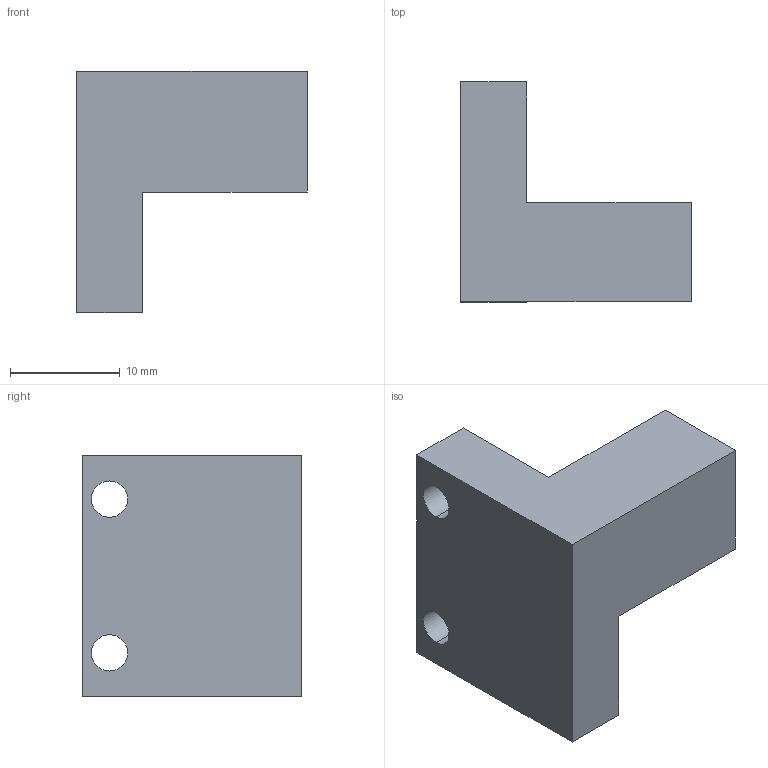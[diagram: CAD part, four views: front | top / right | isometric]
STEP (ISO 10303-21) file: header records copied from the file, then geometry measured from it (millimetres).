
FILE_DESCRIPTION (( 'STEP AP203' ), '1' );
FILE_NAME ('CHU 12 DOIGT DROIT.STEP', '2012-12-12T15:49:13', ( '' ), ( '' ), 'SwSTEP 2.0', 'SolidWorks 2010', '' );
FILE_SCHEMA (( 'CONFIG_CONTROL_DESIGN' ));
Length unit declared in the file: millimetre
Products named in the file (1): CHU 12 DOIGT DROIT
Bounding box: 21 x 20 x 22 mm (x, y, z)
Volume: 4022.4 mm3; surface area: 2074.2 mm2
Topology: 1 solids, 1 shells, 13 faces, 33 edges, 22 vertices
Faces by surface type: plane 9, cylinder 4
Entity records: 480 total; most frequent: CARTESIAN_POINT 69, DIRECTION 69, ORIENTED_EDGE 66, EDGE_CURVE 33, LINE 25, VECTOR 25, AXIS2_PLACEMENT_3D 22, VERTEX_POINT 22
